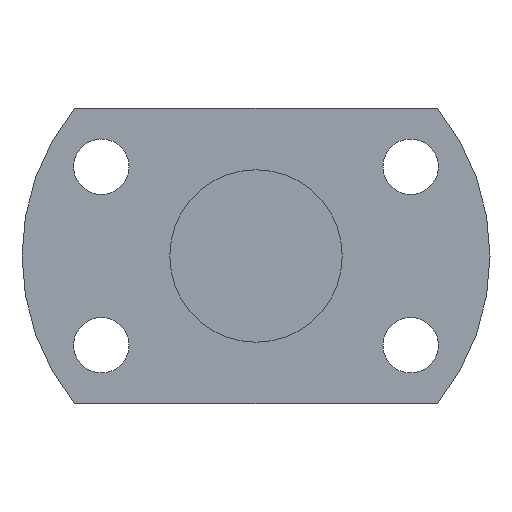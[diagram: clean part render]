
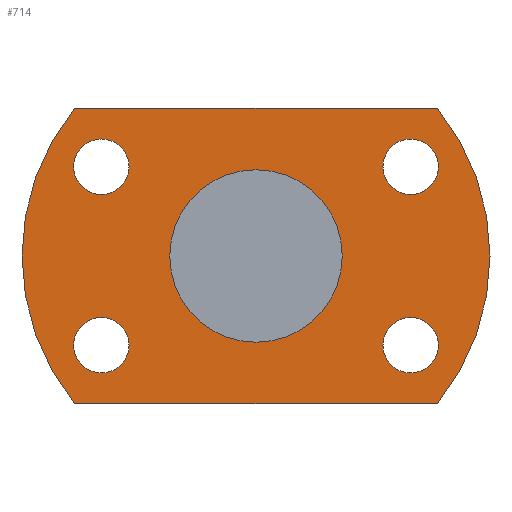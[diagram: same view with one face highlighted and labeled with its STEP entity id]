
A CAD part, left-side view. The second image highlights one B-rep face of the part: STEP entity #714.
In plain terms, the highlighted planar face has unit normal (-1, 0, 0).
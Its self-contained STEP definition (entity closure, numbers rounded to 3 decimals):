
#230=CARTESIAN_POINT('',(120.0,25.115,-10.0));
#231=VERTEX_POINT('',#230);
#232=CARTESIAN_POINT('',(120.0,25.115,-14.5));
#233=DIRECTION('',(1.0,0.0,0.0));
#234=DIRECTION('',(0.0,0.0,1.0));
#235=AXIS2_PLACEMENT_3D('',#232,#233,#234);
#236=CIRCLE('',#235,4.5);
#237=EDGE_CURVE('',#231,#231,#236,.T.);
#279=CARTESIAN_POINT('',(120.0,-25.115,19.));
#280=VERTEX_POINT('',#279);
#281=CARTESIAN_POINT('',(120.0,-25.115,14.5));
#282=DIRECTION('',(1.0,0.0,0.0));
#283=DIRECTION('',(0.0,0.0,1.0));
#284=AXIS2_PLACEMENT_3D('',#281,#282,#283);
#285=CIRCLE('',#284,4.5);
#286=EDGE_CURVE('',#280,#280,#285,.T.);
#328=CARTESIAN_POINT('',(120.0,-25.115,-10.));
#329=VERTEX_POINT('',#328);
#330=CARTESIAN_POINT('',(120.0,-25.115,-14.5));
#331=DIRECTION('',(1.0,0.0,0.0));
#332=DIRECTION('',(0.0,0.0,1.0));
#333=AXIS2_PLACEMENT_3D('',#330,#331,#332);
#334=CIRCLE('',#333,4.5);
#335=EDGE_CURVE('',#329,#329,#334,.T.);
#377=CARTESIAN_POINT('',(120.0,25.115,19.0));
#378=VERTEX_POINT('',#377);
#379=CARTESIAN_POINT('',(120.0,25.115,14.5));
#380=DIRECTION('',(1.0,0.0,0.0));
#381=DIRECTION('',(0.0,0.0,1.0));
#382=AXIS2_PLACEMENT_3D('',#379,#380,#381);
#383=CIRCLE('',#382,4.5);
#384=EDGE_CURVE('',#378,#378,#383,.T.);
#548=CARTESIAN_POINT('',(120.0,-29.462,-24.));
#549=VERTEX_POINT('',#548);
#556=CARTESIAN_POINT('',(120.0,29.462,-24.));
#557=VERTEX_POINT('',#556);
#558=CARTESIAN_POINT('',(120.0,29.462,-24.));
#559=DIRECTION('',(0.0,-1.0,0.0));
#560=VECTOR('',#559,58.924);
#561=LINE('',#558,#560);
#562=EDGE_CURVE('',#557,#549,#561,.T.);
#579=CARTESIAN_POINT('',(120.0,-29.462,24.));
#580=VERTEX_POINT('',#579);
#587=CARTESIAN_POINT('',(120.0,0.0,0.0));
#588=DIRECTION('',(-1.0,0.0,0.0));
#589=DIRECTION('',(0.0,0.0,1.0));
#590=AXIS2_PLACEMENT_3D('',#587,#588,#589);
#591=CIRCLE('',#590,38.);
#592=EDGE_CURVE('',#549,#580,#591,.T.);
#604=CARTESIAN_POINT('',(120.0,29.462,24.));
#605=VERTEX_POINT('',#604);
#612=CARTESIAN_POINT('',(120.0,-29.462,24.));
#613=DIRECTION('',(0.0,1.0,0.0));
#614=VECTOR('',#613,58.924);
#615=LINE('',#612,#614);
#616=EDGE_CURVE('',#580,#605,#615,.T.);
#629=CARTESIAN_POINT('',(120.0,0.0,0.0));
#630=DIRECTION('',(-1.0,0.0,0.0));
#631=DIRECTION('',(0.0,0.0,1.0));
#632=AXIS2_PLACEMENT_3D('',#629,#630,#631);
#633=CIRCLE('',#632,38.);
#634=EDGE_CURVE('',#605,#557,#633,.T.);
#680=CARTESIAN_POINT('',(120.0,0.0,18.));
#681=DIRECTION('',(-1.0,0.0,0.0));
#682=DIRECTION('',(0.0,0.0,1.0));
#683=AXIS2_PLACEMENT_3D('',#680,#681,#682);
#684=PLANE('',#683);
#685=ORIENTED_EDGE('',*,*,#634,.T.);
#686=ORIENTED_EDGE('',*,*,#562,.T.);
#687=ORIENTED_EDGE('',*,*,#592,.T.);
#688=ORIENTED_EDGE('',*,*,#616,.T.);
#689=EDGE_LOOP('',(#685,#686,#687,#688));
#690=FACE_OUTER_BOUND('',#689,.T.);
#691=ORIENTED_EDGE('',*,*,#237,.T.);
#692=EDGE_LOOP('',(#691));
#693=FACE_BOUND('',#692,.T.);
#694=ORIENTED_EDGE('',*,*,#286,.T.);
#695=EDGE_LOOP('',(#694));
#696=FACE_BOUND('',#695,.T.);
#697=ORIENTED_EDGE('',*,*,#335,.T.);
#698=EDGE_LOOP('',(#697));
#699=FACE_BOUND('',#698,.T.);
#700=ORIENTED_EDGE('',*,*,#384,.T.);
#701=EDGE_LOOP('',(#700));
#702=FACE_BOUND('',#701,.T.);
#703=CARTESIAN_POINT('',(120.0,0.0,14.));
#704=VERTEX_POINT('',#703);
#705=CARTESIAN_POINT('',(120.0,0.0,0.0));
#706=DIRECTION('',(-1.0,0.0,0.0));
#707=DIRECTION('',(0.0,0.0,1.0));
#708=AXIS2_PLACEMENT_3D('',#705,#706,#707);
#709=CIRCLE('',#708,14.);
#710=EDGE_CURVE('',#704,#704,#709,.T.);
#711=ORIENTED_EDGE('',*,*,#710,.F.);
#712=EDGE_LOOP('',(#711));
#713=FACE_BOUND('',#712,.T.);
#714=ADVANCED_FACE('',(#690,#693,#696,#699,#702,#713),#684,.T.);
